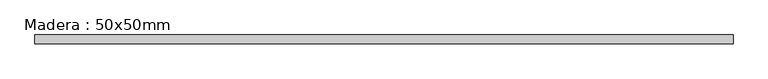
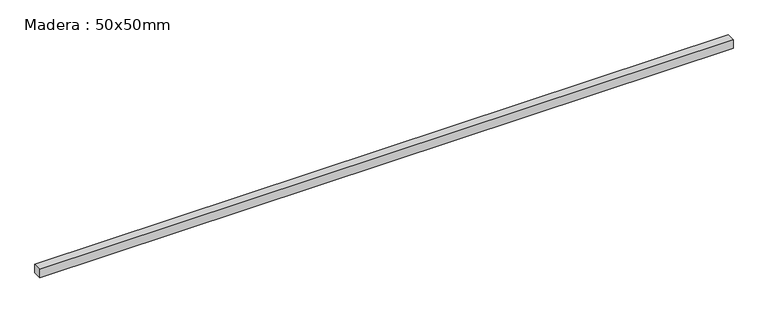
"""IFC4 building model written with IfcOpenShell, lengths in millimetres: beam geometry, Madera : 50x50mm."""

from ifc_helpers import new_model, si_unit, frame, origin, place, context, project, spatial, polyline, outline, extrude, source, transform, mapped, element, save


def madera_50x50mm_114ea56b(model_context):
    return source(origin(), model_context, "Body", "SweptSolid", [
        extrude(outline(polyline([(1977.5, 25.0), (1977.5, -25.0), (-1972.4211263, -25.0), (-1972.4211263, 25.0), (1977.5, 25.0)])), frame((0.0, 0.0, -25.0), z_axis=(0.0, 0.0, 1.0), x_axis=(1.0, 0.0, 0.0)), (0.0, 0.0, 1.0), 50.0),
    ])


if __name__ == "__main__":
    model = new_model("IFC4")
    model_context = context("Model", 3, world=origin())
    ifc_project = project(units=[si_unit("LENGTHUNIT", "METRE", prefix="MILLI")], contexts=[model_context])
    site = spatial("IfcSite", under=ifc_project)
    building = spatial("IfcBuilding", under=site)
    placement = place(None, origin())
    madera_50x50mm_shape = madera_50x50mm_114ea56b(model_context)
    element("IfcBeam", 1, ObjectType="Madera : 50x50mm", at=placement, inside=building, context=model_context, shape_type="MappedRepresentation", body=[
        mapped(madera_50x50mm_shape, transform((0.0, 0.0, 0.0), x_axis=(1.0, 0.0, 0.0), y_axis=(0.0, 1.0, 0.0), z_axis=(0.0, 0.0, 1.0))),
    ])
    save(model, "model.ifc")
